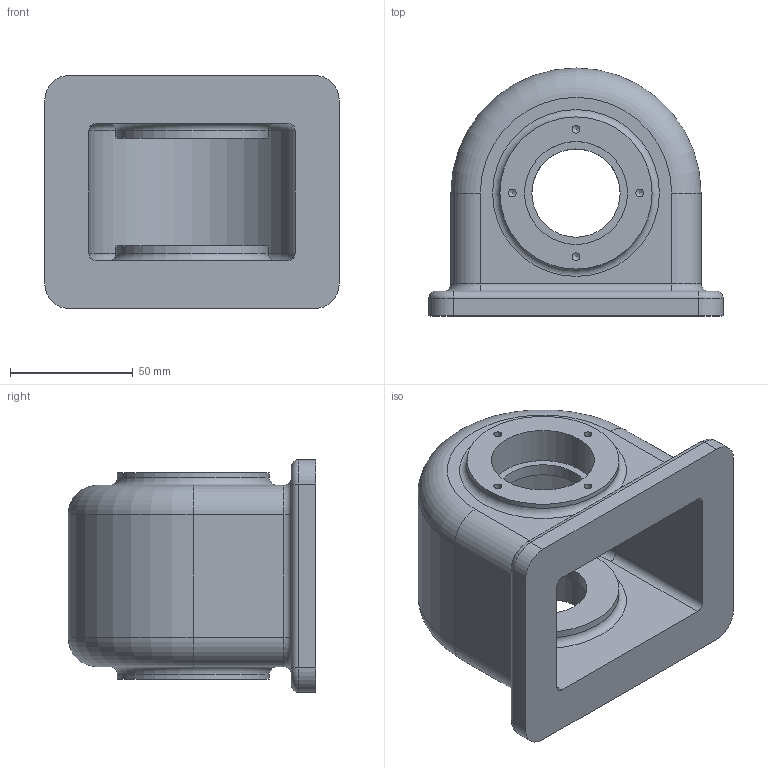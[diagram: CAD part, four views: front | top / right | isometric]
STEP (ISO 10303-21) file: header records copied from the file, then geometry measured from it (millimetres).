
FILE_DESCRIPTION(/* description */ (''),/* implementation_level */ '2;1');
FILE_NAME(/* name */ 'C:\Users\201-08\Desktop\380723E1012\380723E1012_본체.stp',/* time_stamp */ '2018-07-07T17:10:05+09:00',/* author */ ('201-08'),/* organization */ (''),/* preprocessor_version */ 'ST-DEVELOPER v16.1',/* originating_system */ 'Autodesk Inventor 2016',/* authorisation */ '');
FILE_SCHEMA (('AUTOMOTIVE_DESIGN { 1 0 10303 214 3 1 1 }'));
Length unit declared in the file: millimetre
Products named in the file (1): 380723E1012_정미선
Bounding box: 120 x 101 x 95 mm (x, y, z)
Volume: 328983.7 mm3; surface area: 76717.1 mm2
Topology: 1 solids, 1 shells, 82 faces, 180 edges, 108 vertices
Faces by surface type: cylinder 38, plane 20, torus 16, cone 8
Full cylindrical faces by diameter (mm): 3.242 x8, 36 x2, 42 x2, 62 x4
Entity records: 2068 total; most frequent: DIRECTION 402, CARTESIAN_POINT 327, ORIENTED_EDGE 288, AXIS2_PLACEMENT_3D 175, EDGE_CURVE 144, EDGE_LOOP 122, VERTEX_POINT 100, CIRCLE 92
